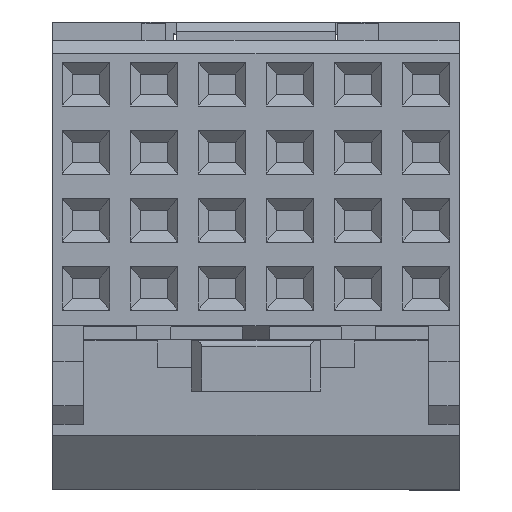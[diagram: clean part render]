
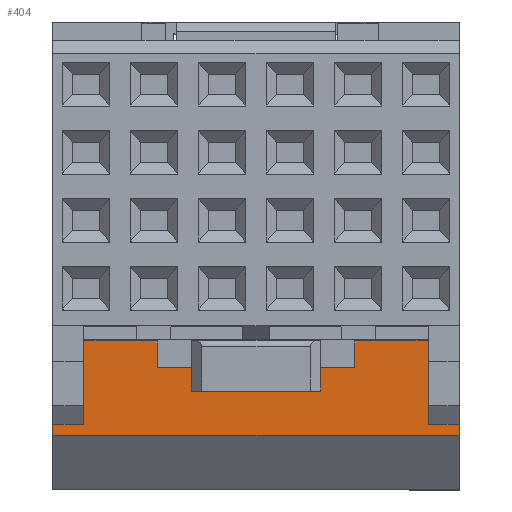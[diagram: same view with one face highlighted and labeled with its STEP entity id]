
A CAD part, top view. The second image highlights one B-rep face of the part: STEP entity #404.
In plain terms, the highlighted planar face has unit normal (0, 0, 1).
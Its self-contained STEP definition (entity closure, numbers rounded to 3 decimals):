
#123 = EDGE_CURVE ( 'NONE', #6300, #6447, #8767, .T. ) ;
#404 = ADVANCED_FACE ( 'NONE', ( #10989 ), #10974, .T. ) ;
#1102 = VECTOR ( 'NONE', #8769, 1000. ) ;
#2020 = EDGE_CURVE ( 'NONE', #6296, #6187, #18399, .T. ) ;
#2056 = EDGE_CURVE ( 'NONE', #6299, #6300, #18504, .T. ) ;
#4665 = ORIENTED_EDGE ( 'NONE', *, *, #2020, .F. ) ;
#4676 = ORIENTED_EDGE ( 'NONE', *, *, #7645, .T. ) ;
#4686 = ORIENTED_EDGE ( 'NONE', *, *, #7379, .F. ) ;
#4701 = ORIENTED_EDGE ( 'NONE', *, *, #123, .T. ) ;
#4716 = ORIENTED_EDGE ( 'NONE', *, *, #26204, .T. ) ;
#4719 = ORIENTED_EDGE ( 'NONE', *, *, #2056, .T. ) ;
#4741 = ORIENTED_EDGE ( 'NONE', *, *, #26260, .T. ) ;
#4749 = ORIENTED_EDGE ( 'NONE', *, *, #7400, .F. ) ;
#4772 = ORIENTED_EDGE ( 'NONE', *, *, #26263, .T. ) ;
#4794 = ORIENTED_EDGE ( 'NONE', *, *, #7370, .T. ) ;
#4798 = ORIENTED_EDGE ( 'NONE', *, *, #7377, .T. ) ;
#4800 = ORIENTED_EDGE ( 'NONE', *, *, #7536, .T. ) ;
#6187 = VERTEX_POINT ( 'NONE', #27218 ) ;
#6205 = VERTEX_POINT ( 'NONE', #27236 ) ;
#6260 = VERTEX_POINT ( 'NONE', #27291 ) ;
#6296 = VERTEX_POINT ( 'NONE', #27327 ) ;
#6299 = VERTEX_POINT ( 'NONE', #27330 ) ;
#6300 = VERTEX_POINT ( 'NONE', #27331 ) ;
#6405 = VERTEX_POINT ( 'NONE', #27436 ) ;
#6406 = VERTEX_POINT ( 'NONE', #27437 ) ;
#6410 = VERTEX_POINT ( 'NONE', #27441 ) ;
#6416 = VERTEX_POINT ( 'NONE', #27447 ) ;
#6435 = VERTEX_POINT ( 'NONE', #27466 ) ;
#6447 = VERTEX_POINT ( 'NONE', #27478 ) ;
#6535 = EDGE_LOOP ( 'NONE', ( #4719, #4701, #4794, #4800, #4665, #4772, #4749, #4798, #4741, #4716, #4686, #4676 ) ) ;
#7370 = EDGE_CURVE ( 'NONE', #6447, #6205, #27654, .T. ) ;
#7377 = EDGE_CURVE ( 'NONE', #6416, #6410, #27688, .T. ) ;
#7379 = EDGE_CURVE ( 'NONE', #6260, #6405, #27707, .T. ) ;
#7400 = EDGE_CURVE ( 'NONE', #6416, #6435, #27793, .T. ) ;
#7536 = EDGE_CURVE ( 'NONE', #6205, #6187, #13646, .T. ) ;
#7645 = EDGE_CURVE ( 'NONE', #6260, #6299, #14934, .T. ) ;
#8767 = LINE ( 'NONE', #8768, #1102 ) ;
#8768 = CARTESIAN_POINT ( 'NONE',  ( 1.838, -2.388, -6.32 ) ) ;
#8769 = DIRECTION ( 'NONE',  ( 0., -1., 0. ) ) ;
#10974 = PLANE ( 'NONE',  #11106 ) ;
#10989 = FACE_OUTER_BOUND ( 'NONE', #6535, .T. ) ;
#10999 = CARTESIAN_POINT ( 'NONE',  ( -6.032, -2.388, -6.32 ) ) ;
#11000 = DIRECTION ( 'NONE',  ( 0., 0., 1. ) ) ;
#11001 = DIRECTION ( 'NONE',  ( 0., -1., 0. ) ) ;
#11106 = AXIS2_PLACEMENT_3D ( 'NONE', #10999, #11000, #11001 ) ;
#13644 = CARTESIAN_POINT ( 'NONE',  ( -1.962, -2.388, -6.32 ) ) ;
#13646 = LINE ( 'NONE', #13644, #28375 ) ;
#13655 = DIRECTION ( 'NONE',  ( 0., 1., 0. ) ) ;
#14934 = LINE ( 'NONE', #14936, #28586 ) ;
#14936 = CARTESIAN_POINT ( 'NONE',  ( 2.838, -2.888, -6.32 ) ) ;
#14938 = DIRECTION ( 'NONE',  ( 0., -1., 0. ) ) ;
#15723 = LINE ( 'NONE', #15738, #28692 ) ;
#15738 = CARTESIAN_POINT ( 'NONE',  ( 5.913, 6.462, -6.32 ) ) ;
#15739 = DIRECTION ( 'NONE',  ( 0., 1., 0. ) ) ;
#15830 = LINE ( 'NONE', #15831, #28745 ) ;
#15831 = CARTESIAN_POINT ( 'NONE',  ( -6.032, -5.688, -6.32 ) ) ;
#15832 = DIRECTION ( 'NONE',  ( 1., 0., 0. ) ) ;
#15833 = LINE ( 'NONE', #15834, #28746 ) ;
#15834 = CARTESIAN_POINT ( 'NONE',  ( -2.962, -3.688, -6.32 ) ) ;
#15835 = DIRECTION ( 'NONE',  ( 0., 1., 0. ) ) ;
#17706 = VECTOR ( 'NONE', #18412, 1000. ) ;
#17742 = VECTOR ( 'NONE', #18520, 1000. ) ;
#18399 = LINE ( 'NONE', #18411, #17706 ) ;
#18411 = CARTESIAN_POINT ( 'NONE',  ( -2.962, -3.688, -6.32 ) ) ;
#18412 = DIRECTION ( 'NONE',  ( 1., 0., 0. ) ) ;
#18504 = LINE ( 'NONE', #18519, #17742 ) ;
#18519 = CARTESIAN_POINT ( 'NONE',  ( 1.838, -3.688, -6.32 ) ) ;
#18520 = DIRECTION ( 'NONE',  ( -1., 0., 0. ) ) ;
#24897 = VECTOR ( 'NONE', #27677, 1000. ) ;
#24908 = VECTOR ( 'NONE', #27709, 1000. ) ;
#24909 = VECTOR ( 'NONE', #27706, 1000. ) ;
#24947 = VECTOR ( 'NONE', #27795, 1000. ) ;
#26204 = EDGE_CURVE ( 'NONE', #6406, #6405, #15723, .T. ) ;
#26260 = EDGE_CURVE ( 'NONE', #6410, #6406, #15830, .T. ) ;
#26263 = EDGE_CURVE ( 'NONE', #6296, #6435, #15833, .T. ) ;
#27218 = CARTESIAN_POINT ( 'NONE',  ( -1.962, -3.688, -6.32 ) ) ;
#27236 = CARTESIAN_POINT ( 'NONE',  ( -1.962, -4.388, -6.32 ) ) ;
#27291 = CARTESIAN_POINT ( 'NONE',  ( 2.838, -2.888, -6.32 ) ) ;
#27327 = CARTESIAN_POINT ( 'NONE',  ( -2.962, -3.688, -6.32 ) ) ;
#27330 = CARTESIAN_POINT ( 'NONE',  ( 2.838, -3.688, -6.32 ) ) ;
#27331 = CARTESIAN_POINT ( 'NONE',  ( 1.838, -3.688, -6.32 ) ) ;
#27436 = CARTESIAN_POINT ( 'NONE',  ( 5.913, -2.888, -6.32 ) ) ;
#27437 = CARTESIAN_POINT ( 'NONE',  ( 5.913, -5.688, -6.32 ) ) ;
#27441 = CARTESIAN_POINT ( 'NONE',  ( -6.037, -5.688, -6.32 ) ) ;
#27447 = CARTESIAN_POINT ( 'NONE',  ( -6.037, -2.888, -6.32 ) ) ;
#27466 = CARTESIAN_POINT ( 'NONE',  ( -2.962, -2.888, -6.32 ) ) ;
#27478 = CARTESIAN_POINT ( 'NONE',  ( 1.838, -4.388, -6.32 ) ) ;
#27654 = LINE ( 'NONE', #27676, #24897 ) ;
#27676 = CARTESIAN_POINT ( 'NONE',  ( -6.032, -4.388, -6.32 ) ) ;
#27677 = DIRECTION ( 'NONE',  ( -1., 0., 0. ) ) ;
#27688 = LINE ( 'NONE', #27705, #24909 ) ;
#27705 = CARTESIAN_POINT ( 'NONE',  ( -6.037, -5.688, -6.32 ) ) ;
#27706 = DIRECTION ( 'NONE',  ( 0., -1., 0. ) ) ;
#27707 = LINE ( 'NONE', #27708, #24908 ) ;
#27708 = CARTESIAN_POINT ( 'NONE',  ( -6.037, -2.888, -6.32 ) ) ;
#27709 = DIRECTION ( 'NONE',  ( 1., 0., 0. ) ) ;
#27793 = LINE ( 'NONE', #27794, #24947 ) ;
#27794 = CARTESIAN_POINT ( 'NONE',  ( -6.037, -2.888, -6.32 ) ) ;
#27795 = DIRECTION ( 'NONE',  ( 1., 0., 0. ) ) ;
#28375 = VECTOR ( 'NONE', #13655, 1000. ) ;
#28586 = VECTOR ( 'NONE', #14938, 1000. ) ;
#28692 = VECTOR ( 'NONE', #15739, 1000. ) ;
#28745 = VECTOR ( 'NONE', #15832, 1000. ) ;
#28746 = VECTOR ( 'NONE', #15835, 1000. ) ;
